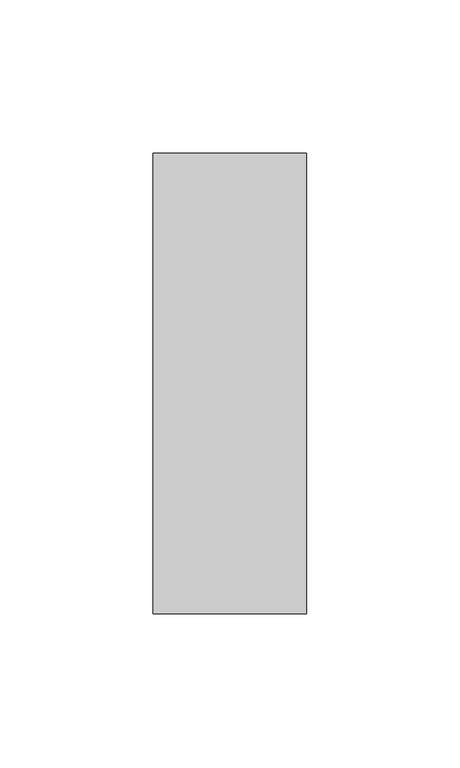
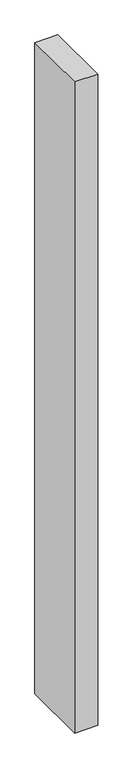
"""IFC4 building model written with IfcOpenShell, lengths in millimetres: member geometry, Прямоугольный импост : 50 x 150 мм."""

from ifc_helpers import new_model, si_unit, frame, origin, place, context, project, spatial, polyline, outline, extrude, source, transform, mapped, element, save


def member_c97aabf5(model_context):
    return source(origin(), model_context, "Body", "SweptSolid", [
        extrude(outline(polyline([(25.0, 75.0), (25.0, -75.0), (-25.0, -75.0), (-25.0, 75.0), (25.0, 75.0)])), frame((0.0, 0.0, -1499.9356944), z_axis=(0.0, 0.0, 1.0), x_axis=(1.0, 0.0, 0.0)), (0.0, 0.0, 1.0), 1499.9356944),
    ])


if __name__ == "__main__":
    model = new_model("IFC4")
    model_context = context("Model", 3, world=origin())
    ifc_project = project(units=[si_unit("LENGTHUNIT", "METRE", prefix="MILLI")], contexts=[model_context])
    site = spatial("IfcSite", under=ifc_project)
    building = spatial("IfcBuilding", under=site)
    placement = place(None, origin())
    member_shape = member_c97aabf5(model_context)
    element("IfcMember", 1, ObjectType="Прямоугольный импост : 50 x 150 мм", at=placement, inside=building, context=model_context, shape_type="MappedRepresentation", body=[
        mapped(member_shape, transform((0.0, 0.0, 0.0), x_axis=(1.0, 0.0, 0.0), y_axis=(0.0, 1.0, 0.0), z_axis=(0.0, 0.0, 1.0))),
    ])
    save(model, "model.ifc")
